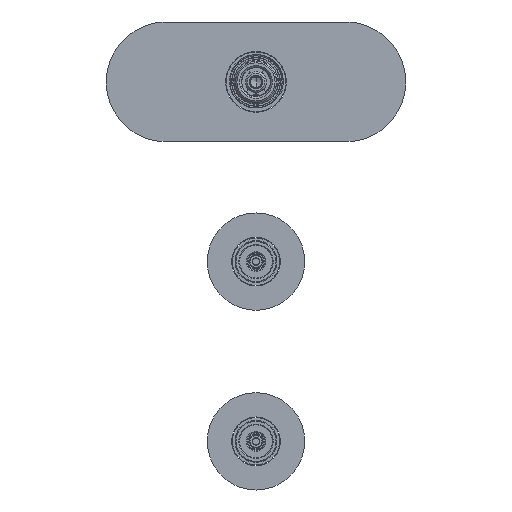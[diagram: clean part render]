
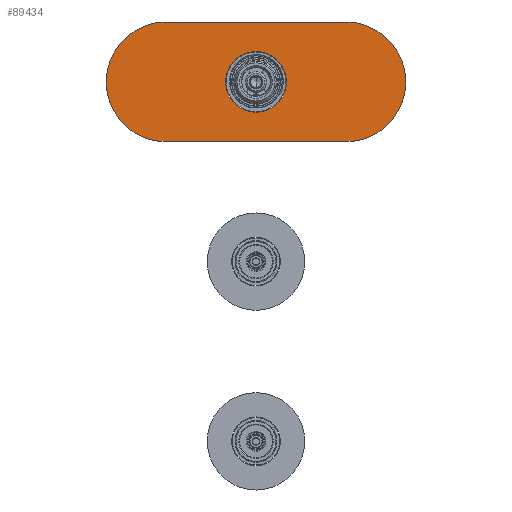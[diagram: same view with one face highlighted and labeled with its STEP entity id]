
A CAD part, front view. The second image highlights one B-rep face of the part: STEP entity #89434.
In plain terms, the highlighted planar face has unit normal (0, -1, 0).
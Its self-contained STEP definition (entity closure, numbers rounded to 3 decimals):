
#81022=CARTESIAN_POINT('',(-60.,84.7,0.));
#81023=DIRECTION('',(0.,1.,0.));
#81024=DIRECTION('',(0.,0.,-1.));
#81025=AXIS2_PLACEMENT_3D('',#81022,#81023,#81024);
#81027=DIRECTION('',(1.,0.,0.));
#81028=VECTOR('',#81027,120.);
#81029=CARTESIAN_POINT('',(-60.,84.7,40.));
#81030=LINE('',#81029,#81028);
#81031=CARTESIAN_POINT('',(60.,84.7,0.));
#81032=DIRECTION('',(0.,1.,0.));
#81033=DIRECTION('',(0.,0.,1.));
#81034=AXIS2_PLACEMENT_3D('',#81031,#81032,#81033);
#81036=DIRECTION('',(-1.,0.,0.));
#81037=VECTOR('',#81036,120.);
#81038=CARTESIAN_POINT('',(60.,84.7,-40.));
#81039=LINE('',#81038,#81037);
#81040=CARTESIAN_POINT('',(0.,84.7,0.));
#81041=DIRECTION('',(0.,-1.,0.));
#81042=DIRECTION('',(1.,0.,0.));
#81043=AXIS2_PLACEMENT_3D('',#81040,#81041,#81042);
#81045=CARTESIAN_POINT('',(0.,84.7,0.));
#81046=DIRECTION('',(0.,-1.,0.));
#81047=DIRECTION('',(-1.,0.,0.));
#81048=AXIS2_PLACEMENT_3D('',#81045,#81046,#81047);
#86029=CARTESIAN_POINT('',(20.25,84.7,0.));
#86030=CARTESIAN_POINT('',(-20.25,84.7,0.));
#86031=VERTEX_POINT('',#86029);
#86032=VERTEX_POINT('',#86030);
#86033=CARTESIAN_POINT('',(-60.,84.7,40.));
#86034=CARTESIAN_POINT('',(60.,84.7,40.));
#86035=VERTEX_POINT('',#86033);
#86036=VERTEX_POINT('',#86034);
#86037=CARTESIAN_POINT('',(60.,84.7,-40.));
#86038=CARTESIAN_POINT('',(-60.,84.7,-40.));
#86039=VERTEX_POINT('',#86037);
#86040=VERTEX_POINT('',#86038);
#89417=CARTESIAN_POINT('',(0.,84.7,0.));
#89418=DIRECTION('',(0.,1.,0.));
#89419=DIRECTION('',(1.,0.,0.));
#89420=AXIS2_PLACEMENT_3D('',#89417,#89418,#89419);
#89421=PLANE('',#89420);
#89422=ORIENTED_EDGE('',*,*,#89369,.T.);
#89423=ORIENTED_EDGE('',*,*,#89384,.T.);
#89424=ORIENTED_EDGE('',*,*,#89398,.T.);
#89425=ORIENTED_EDGE('',*,*,#89411,.T.);
#89426=EDGE_LOOP('',(#89422,#89423,#89424,#89425));
#89427=FACE_OUTER_BOUND('',#89426,.F.);
#89429=ORIENTED_EDGE('',*,*,#89428,.T.);
#89431=ORIENTED_EDGE('',*,*,#89430,.T.);
#89432=EDGE_LOOP('',(#89429,#89431));
#89433=FACE_BOUND('',#89432,.F.);
#89434=ADVANCED_FACE('',(#89427,#89433),#89421,.F.);
#81026=CIRCLE('',#81025,40.);
#81035=CIRCLE('',#81034,40.);
#81044=CIRCLE('',#81043,20.25);
#81049=CIRCLE('',#81048,20.25);
#89369=EDGE_CURVE('',#86040,#86035,#81026,.T.);
#89384=EDGE_CURVE('',#86035,#86036,#81030,.T.);
#89398=EDGE_CURVE('',#86036,#86039,#81035,.T.);
#89411=EDGE_CURVE('',#86039,#86040,#81039,.T.);
#89428=EDGE_CURVE('',#86031,#86032,#81044,.T.);
#89430=EDGE_CURVE('',#86032,#86031,#81049,.T.);
